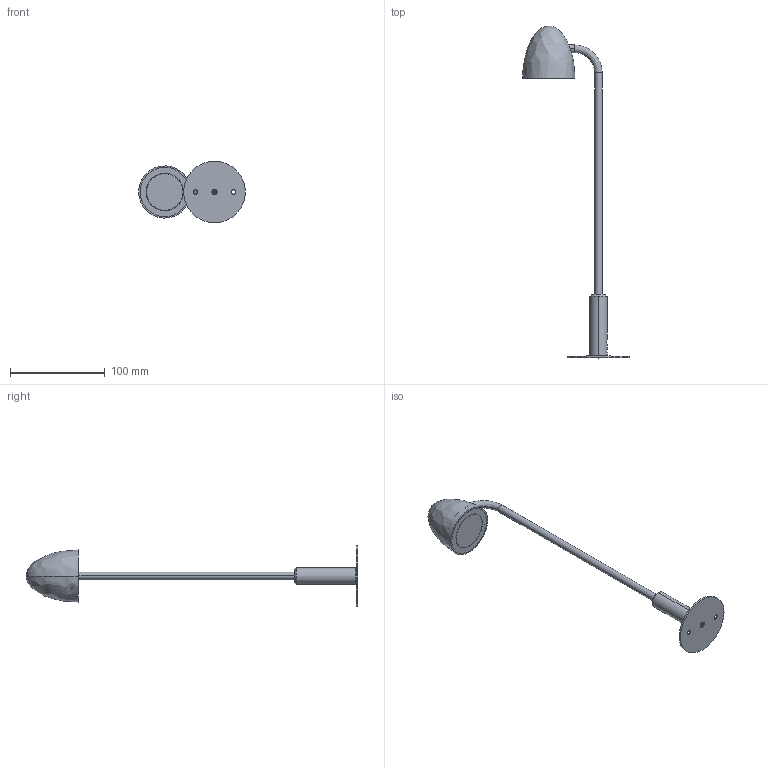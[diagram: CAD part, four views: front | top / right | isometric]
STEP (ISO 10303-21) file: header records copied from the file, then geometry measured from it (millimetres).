
FILE_DESCRIPTION (( 'STEP AP203' ), '1' );
FILE_NAME ('3D SITO_POPPY_350mm.STEP', '2026-02-04T15:31:31', ( '' ), ( '' ), 'SwSTEP 2.0', 'SolidWorks 2016', '' );
FILE_SCHEMA (( 'CONFIG_CONTROL_DESIGN' ));
Length unit declared in the file: millimetre
Products named in the file (7): 3D SITO_POPPY_350mm; tubo Poppy 35_; basetta P-M_; ghiera Poppy_; supporto cilindrico P-M_; Schermo Poppy; Calotta Poppy_
Assembly tree (6 placements, depth 2):
  3D SITO_POPPY_350mm
    basetta P-M_
    tubo Poppy 35_
    Calotta Poppy_
    ghiera Poppy_
    Schermo Poppy
    supporto cilindrico P-M_
Bounding box: 112.43 x 350.01 x 65 mm (x, y, z)
Volume: 110455.8 mm3; surface area: 44070.8 mm2
Topology: 6 solids, 6 shells, 90 faces, 200 edges, 126 vertices
Faces by surface type: cylinder 46, plane 18, cone 14, bspline 12
Entity records: 6868 total; most frequent: CARTESIAN_POINT 4128, DIRECTION 446, ORIENTED_EDGE 396, EDGE_CURVE 198, AXIS2_PLACEMENT_3D 193, VERTEX_POINT 126, EDGE_LOOP 112, CIRCLE 106
